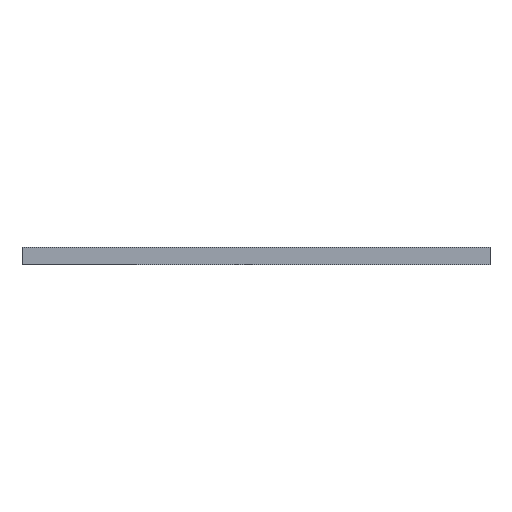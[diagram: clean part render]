
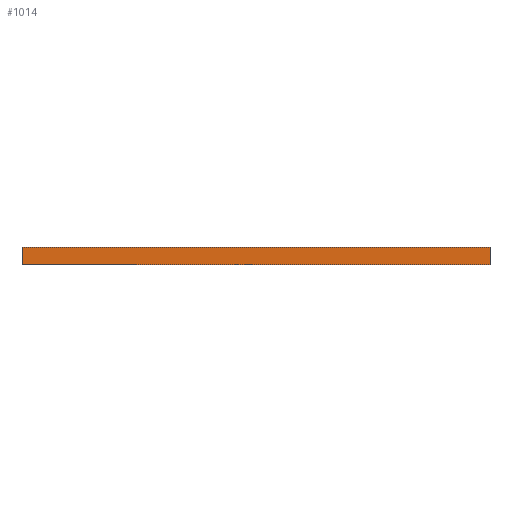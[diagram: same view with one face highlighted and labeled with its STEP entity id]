
A CAD part, front view. The second image highlights one B-rep face of the part: STEP entity #1014.
In plain terms, the highlighted planar face has unit normal (0, -1, 0).
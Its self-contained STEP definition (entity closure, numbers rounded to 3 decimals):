
#744 = VERTEX_POINT ( 'NONE', #2409 ) ;
#746 = EDGE_CURVE ( 'NONE', #744, #747, #2408, .T. ) ;
#747 = VERTEX_POINT ( 'NONE', #2404 ) ;
#890 = VERTEX_POINT ( 'NONE', #2636 ) ;
#897 = VERTEX_POINT ( 'NONE', #2739 ) ;
#979 = EDGE_CURVE ( 'NONE', #744, #897, #2579, .T. ) ;
#983 = EDGE_LOOP ( 'NONE', ( #1015, #1016, #1018, #1019 ) ) ;
#985 = EDGE_CURVE ( 'NONE', #897, #890, #2744, .T. ) ;
#1014 = ADVANCED_FACE ( 'NONE', ( #2678 ), #2673, .F. ) ;
#1015 = ORIENTED_EDGE ( 'NONE', *, *, #985, .T. ) ;
#1016 = ORIENTED_EDGE ( 'NONE', *, *, #1017, .F. ) ;
#1017 = EDGE_CURVE ( 'NONE', #747, #890, #2668, .T. ) ;
#1018 = ORIENTED_EDGE ( 'NONE', *, *, #746, .F. ) ;
#1019 = ORIENTED_EDGE ( 'NONE', *, *, #979, .T. ) ;
#2404 = CARTESIAN_POINT ( 'NONE',  ( 110., -127.5, 8. ) ) ;
#2405 = DIRECTION ( 'NONE',  ( 1., 0., 0. ) ) ;
#2406 = VECTOR ( 'NONE', #2405, 1000. ) ;
#2407 = CARTESIAN_POINT ( 'NONE',  ( -110., -127.5, 8. ) ) ;
#2408 = LINE ( 'NONE', #2407, #2406 ) ;
#2409 = CARTESIAN_POINT ( 'NONE',  ( -110., -127.5, 8. ) ) ;
#2575 = DIRECTION ( 'NONE',  ( 0., 0., -1. ) ) ;
#2576 = VECTOR ( 'NONE', #2575, 1000. ) ;
#2579 = LINE ( 'NONE', #2751, #2750 ) ;
#2636 = CARTESIAN_POINT ( 'NONE',  ( 110., -127.5, 0. ) ) ;
#2667 = CARTESIAN_POINT ( 'NONE',  ( 110., -127.5, 8. ) ) ;
#2668 = LINE ( 'NONE', #2667, #2576 ) ;
#2669 = DIRECTION ( 'NONE',  ( 0., 0., 1. ) ) ;
#2670 = DIRECTION ( 'NONE',  ( 0., 1., 0. ) ) ;
#2671 = CARTESIAN_POINT ( 'NONE',  ( -110., -127.5, 8. ) ) ;
#2672 = AXIS2_PLACEMENT_3D ( 'NONE', #2671, #2670, #2669 ) ;
#2673 = PLANE ( 'NONE',  #2672 ) ;
#2678 = FACE_OUTER_BOUND ( 'NONE', #983, .T. ) ;
#2718 = DIRECTION ( 'NONE',  ( 1., 0., 0. ) ) ;
#2739 = CARTESIAN_POINT ( 'NONE',  ( -110., -127.5, 0. ) ) ;
#2742 = VECTOR ( 'NONE', #2718, 1000. ) ;
#2743 = CARTESIAN_POINT ( 'NONE',  ( -110., -127.5, 0. ) ) ;
#2744 = LINE ( 'NONE', #2743, #2742 ) ;
#2749 = DIRECTION ( 'NONE',  ( 0., 0., -1. ) ) ;
#2750 = VECTOR ( 'NONE', #2749, 1000. ) ;
#2751 = CARTESIAN_POINT ( 'NONE',  ( -110., -127.5, 8. ) ) ;
